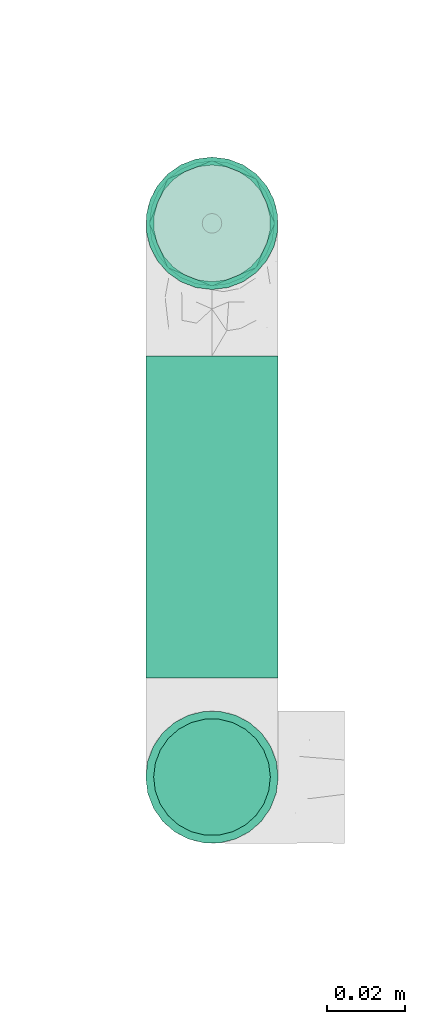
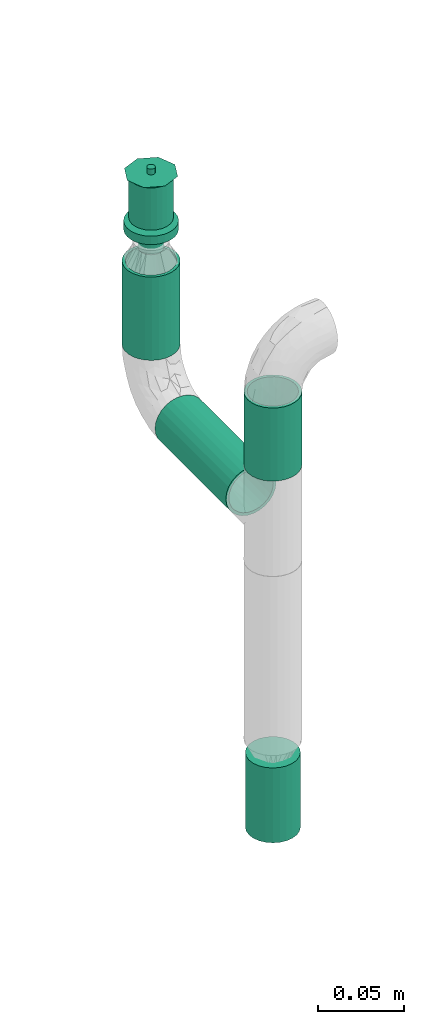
# One storey, part 131 of 157: 3 flow segments, 2 flow terminals.
"""IFC2X3 building model written with IfcOpenShell, lengths in millimetres."""

from ifc_helpers import new_model, entity, si_unit, converted_unit, derived_unit, direction, frame, origin_with_axes, origin_2d_with_axis, place, context, subcontext, project, spatial, hollow_circle, extrude, open_shell, surface_model, source, transform, mapped, type_object, element, save


model = new_model("IFC2X3")

# Units and contexts
model_context = context("Model", 3, precision=0.01, world=frame((0.0, 4.29681676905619e-09, 0.0)), true_north=direction((4.01073788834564e-13, 1.0)))
plan_context = context("Plan", 3, precision=0.01, world=frame((0.0, 4.29681676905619e-09, 0.0)), true_north=direction((4.01073788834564e-13, 1.0)))
body_context = subcontext(model_context, "Body", "Model", "MODEL_VIEW")
ifc_project = project(units=[converted_unit("PLANEANGLEUNIT", "DEGREE", entity("IfcPositiveLengthMeasure", 0.0174532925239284), si_unit("PLANEANGLEUNIT", "RADIAN"), dimensions=[0, 0, 0, 0, 0, 0, 0]), si_unit("AREAUNIT", "SQUARE_METRE"), si_unit("LENGTHUNIT", "METRE", prefix="MILLI"), si_unit("MASSUNIT", "GRAM", prefix="KILO"), si_unit("POWERUNIT", "WATT"), si_unit("PRESSUREUNIT", "PASCAL"), si_unit("FORCEUNIT", "NEWTON", prefix="KILO"), si_unit("ELECTRICCURRENTUNIT", "AMPERE"), si_unit("THERMODYNAMICTEMPERATUREUNIT", "DEGREE_CELSIUS"), si_unit("TIMEUNIT", "SECOND"), si_unit("VOLUMEUNIT", "CUBIC_METRE"), derived_unit("LINEARVELOCITYUNIT", [(si_unit("LENGTHUNIT", "METRE"), 1), (si_unit("TIMEUNIT", "SECOND"), -1)]), derived_unit("VOLUMETRICFLOWRATEUNIT", [(si_unit("VOLUMEUNIT", "CUBIC_METRE"), 1), (si_unit("TIMEUNIT", "SECOND"), -1)]), derived_unit("THERMALTRANSMITTANCEUNIT", [(si_unit("POWERUNIT", "WATT"), 1), (si_unit("THERMODYNAMICTEMPERATUREUNIT", "KELVIN"), -1), (si_unit("AREAUNIT", "SQUARE_METRE"), -1)])], contexts=[model_context, plan_context])

# Site, building, storey
site_placement = place(None, frame((0.0, -4.29681676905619e-09, 0.0), z_axis=(0.0, 0.0, 1.0), x_axis=(1.0, 0.0, 0.0)))
site = spatial("IfcSite", under=ifc_project, at=site_placement, CompositionType="ELEMENT")
building_placement = place(site_placement, frame((0.0, 4.29681676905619e-09, 0.0), z_axis=(0.0, 0.0, 1.0), x_axis=(1.0, 0.0, 0.0)))
building = spatial("IfcBuilding", under=site, at=building_placement, Name="mc-building", CompositionType="ELEMENT")
storey_placement = place(building_placement, frame((0.0, 0.0, 204000.0), z_axis=(0.0, 0.0, 1.0), x_axis=(1.0, 0.0, 0.0)))
storey = spatial("IfcBuildingStorey", under=building, at=storey_placement, Name="Nivå D", CompositionType="ELEMENT", Elevation=204000.0)

# Flow segments
pipe_segment_type = type_object("IfcPipeSegmentType", Name="Stålrør normaltykke", PredefinedType="RIGIDSEGMENT")
shared_shape_1 = source(origin_with_axes(), body_context, "Body", "SweptSolid", [
    extrude(hollow_circle(Radius=16.9, WallThickness=2.0, at=origin_2d_with_axis()), frame((0.0, 0.0, 0.0), z_axis=(1.0, 0.0, 0.0), x_axis=(0.0, 1.0, 0.0)), (0.0, 0.0, 1.0), 51.8),
])
flow_segment_1_placement = place(storey_placement, frame((518554.95218, 417917.85762, 2603.79999999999), z_axis=(0.0, 1.0, 0.0), x_axis=(0.0, 0.0, 1.0)))
element("IfcFlowSegment", 1, at=flow_segment_1_placement, inside=storey, type_object=pipe_segment_type, Name="Stålrør normaltykke", context=body_context, shape_type="MappedRepresentation", body=[
    mapped(shared_shape_1, transform((0.0, 0.0, 0.0), scale=1.0)),
])
shared_shape_2 = source(origin_with_axes(), body_context, "Body", "SweptSolid", [
    extrude(hollow_circle(Radius=16.9, WallThickness=2.0, at=origin_2d_with_axis()), frame((0.0, 0.0, 0.0), z_axis=(1.0, 0.0, 0.0), x_axis=(0.0, 1.0, 0.0)), (0.0, 0.0, 1.0), 59.0),
])
flow_segment_2_placement = place(storey_placement, frame((518554.95218, 418059.2201, 2662.64799999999), z_axis=(-1.0, 0.0, 0.0), x_axis=(0.0, 0.0, -1.0)))
element("IfcFlowSegment", 2, at=flow_segment_2_placement, inside=storey, type_object=pipe_segment_type, Name="Stålrør normaltykke", context=body_context, shape_type="MappedRepresentation", body=[
    mapped(shared_shape_2, transform((0.0, 0.0, 0.0), scale=1.0)),
])
shared_shape_3 = source(origin_with_axes(), body_context, "Body", "SweptSolid", [
    extrude(hollow_circle(Radius=16.9, WallThickness=2.0, at=origin_2d_with_axis()), frame((0.0, 0.0, 0.0), z_axis=(1.0, 0.0, 0.0), x_axis=(0.0, 1.0, 0.0)), (0.0, 0.0, 1.0), 82.2),
])
flow_segment_3_placement = place(storey_placement, frame((518554.95218, 417943.20762, 2570.0), z_axis=(0.0, 0.0, 1.0), x_axis=(0.0, 1.0, 0.0)))
element("IfcFlowSegment", 3, at=flow_segment_3_placement, inside=storey, type_object=pipe_segment_type, Name="Stålrør normaltykke", context=body_context, shape_type="MappedRepresentation", body=[
    mapped(shared_shape_3, transform((0.0, 0.0, 0.0), scale=1.0)),
])

# Flow terminals
fire_suppression_terminal_type_1 = type_object("IfcFireSuppressionTerminalType", Name="SP-15-K80-68DGR-STD-HIMLING", PredefinedType="NOTDEFINED")
shared_shape_4 = source(origin_with_axes(), body_context, "Body", "SurfaceModel", [
    surface_model("IfcShellBasedSurfaceModel", [(4.1411, -15.45481, 53.0), (8.0, -13.85641, 53.0), (11.31371, -11.31371, 53.0), (-8.0, -13.85641, 53.0), (15.45481, -4.1411, 53.0), (16.0, 0.0, 53.0), (13.85641, -8.0, 53.0), (0.0, -16.0, 53.0), (-4.1411, -15.45481, 53.0), (-13.85641, -8.0, 53.0), (-11.31371, -11.31371, 53.0), (-15.45481, -4.1411, 53.0), (15.45481, 4.1411, 53.0), (13.85641, 8.0, 53.0), (11.31371, 11.31371, 53.0), (-4.1411, 15.45481, 53.0), (8.0, 13.85641, 53.0), (4.1411, 15.45481, 53.0), (0.0, 16.0, 53.0), (-13.85641, 8.0, 53.0), (-15.45481, 4.1411, 53.0), (-16.0, 0.0, 53.0), (-11.31371, 11.31371, 53.0), (-8.0, 13.85641, 53.0), (0.0, 16.0, 0.0), (4.1411, 15.45481, 0.0), (8.0, 13.85641, 0.0), (-4.1411, 15.45481, 0.0), (11.31371, 11.31371, 0.0), (13.85641, 8.0, 0.0), (15.45481, 4.1411, 0.0), (-15.45481, -4.1411, 0.0), (-11.31371, 11.31371, 0.0), (-8.0, 13.85641, 0.0), (-13.85641, 8.0, 0.0), (-15.45481, 4.1411, 0.0), (-16.0, 0.0, 0.0), (4.1411, -15.45481, 0.0), (16.0, 0.0, 0.0), (15.45481, -4.1411, 0.0), (13.85641, -8.0, 0.0), (11.31371, -11.31371, 0.0), (8.0, -13.85641, 0.0), (-8.0, -13.85641, 0.0), (-13.85641, -8.0, 0.0), (-11.31371, -11.31371, 0.0), (0.0, -16.0, 0.0), (-4.1411, -15.45481, 0.0)], [open_shell([[[0, 1, 2]], [[3, 0, 2]], [[4, 5, 2]], [[4, 2, 6]], [[3, 2, 5]], [[7, 3, 8]], [[7, 0, 3]], [[3, 9, 10]], [[9, 3, 11]], [[5, 11, 3]], [[5, 12, 11]], [[12, 13, 14]], [[15, 12, 14]], [[16, 17, 18]], [[14, 16, 15]], [[18, 15, 16]], [[11, 19, 20]], [[21, 11, 20]], [[22, 15, 23]], [[15, 22, 19]], [[19, 11, 15]], [[11, 12, 15]], [[24, 25, 26]], [[27, 24, 26]], [[28, 29, 30]], [[27, 26, 28]], [[27, 28, 31]], [[27, 32, 33]], [[32, 27, 34]], [[34, 31, 35]], [[31, 34, 27]], [[35, 31, 36]], [[28, 30, 31]], [[37, 38, 39]], [[37, 39, 40]], [[41, 42, 37]], [[41, 37, 40]], [[38, 37, 43]], [[44, 43, 45]], [[43, 44, 31]], [[43, 46, 47]], [[43, 31, 38]], [[37, 46, 43]], [[38, 31, 30]], [[11, 31, 44]], [[45, 9, 44]], [[3, 43, 47]], [[45, 43, 10]], [[8, 47, 46]], [[31, 21, 36]], [[31, 11, 21]], [[44, 9, 11]], [[45, 10, 9]], [[3, 10, 43]], [[47, 8, 3]], [[46, 7, 8]], [[0, 37, 42]], [[41, 1, 42]], [[6, 40, 39]], [[41, 40, 2]], [[4, 39, 38]], [[37, 0, 7]], [[42, 1, 0]], [[41, 2, 1]], [[40, 6, 2]], [[4, 6, 39]], [[38, 5, 4]], [[37, 7, 46]], [[12, 38, 30]], [[13, 30, 29]], [[16, 26, 25]], [[17, 25, 24]], [[30, 13, 12]], [[12, 5, 38]], [[28, 14, 13]], [[28, 26, 14]], [[14, 26, 16]], [[25, 17, 16]], [[28, 13, 29]], [[24, 18, 17]], [[15, 27, 33]], [[32, 23, 33]], [[19, 34, 35]], [[32, 34, 22]], [[20, 35, 36]], [[27, 15, 18]], [[33, 23, 15]], [[32, 22, 23]], [[34, 19, 22]], [[20, 19, 35]], [[36, 21, 20]], [[27, 18, 24]]])]),
])
flow_terminal_1_placement = place(storey_placement, frame((518554.95218, 417917.85762, 2400.0), z_axis=(0.0, 0.0, -1.0), x_axis=(1.0, 0.0, 0.0)))
element("IfcFlowTerminal", 4, at=flow_terminal_1_placement, inside=storey, type_object=fire_suppression_terminal_type_1, Name="SP-15-K80-68DGR-STD-HIMLING", context=body_context, shape_type="MappedRepresentation", body=[
    mapped(shared_shape_4, transform((0.0, 0.0, 0.0), scale=1.0)),
])
fire_suppression_terminal_type_2 = type_object("IfcFireSuppressionTerminalType", Name="68DGR-STD-STÅENDE", PredefinedType="NOTDEFINED")
shared_shape_5 = source(origin_with_axes(), body_context, "Body", "SurfaceModel", [
    surface_model("IfcShellBasedSurfaceModel", [(3.36465, -12.55704, 51.0), (6.5, -11.25833, 51.0), (9.19239, -9.19239, 51.0), (12.55704, -3.36465, 51.0), (-11.25833, -6.5, 51.0), (11.25833, -6.5, 51.0), (-13.0, 0.0, 51.0), (0.0, -13.0, 51.0), (-6.5, -11.25833, 51.0), (-3.36465, -12.55704, 51.0), (-9.19239, -9.19239, 51.0), (-12.55704, -3.36465, 51.0), (13.0, 0.0, 51.0), (12.55704, 3.36465, 51.0), (11.25833, 6.5, 51.0), (9.19239, 9.19239, 51.0), (6.5, 11.25833, 51.0), (3.36465, 12.55704, 51.0), (0.0, 13.0, 51.0), (-3.36465, 12.55704, 51.0), (-12.55704, 3.36465, 51.0), (-9.19239, 9.19239, 51.0), (-11.25833, 6.5, 51.0), (-6.5, 11.25833, 51.0), (0.0, 13.0, 21.14766), (3.36465, 12.55704, 21.14766), (6.5, 11.25833, 21.14766), (-3.36465, 12.55704, 21.14766), (9.19239, 9.19239, 21.14766), (11.25833, 6.5, 21.14766), (12.55704, 3.36465, 21.14766), (-12.55704, 3.36465, 21.14766), (-11.25833, -6.5, 21.14766), (-9.19239, 9.19239, 21.14766), (-6.5, 11.25833, 21.14766), (-11.25833, 6.5, 21.14766), (-13.0, 0.0, 21.14766), (12.55704, -3.36465, 21.14766), (9.19239, -9.19239, 21.14766), (11.25833, -6.5, 21.14766), (6.5, -11.25833, 21.14766), (3.36465, -12.55704, 21.14766), (-6.5, -11.25833, 21.14766), (-9.19239, -9.19239, 21.14766), (-12.55704, -3.36465, 21.14766), (0.0, -13.0, 21.14766), (-3.36465, -12.55704, 21.14766), (13.0, 0.0, 21.14766), (7.24444, -1.94114, 0.1), (1.94114, -7.24444, 0.1), (3.75, -6.49519, 0.1), (5.3033, -5.3033, 0.1), (-5.3033, -5.3033, 0.1), (6.49519, -3.75, 0.1), (5.3033, 5.3033, 0.1), (0.0, -7.5, 0.1), (-3.75, -6.49519, 0.1), (-1.94114, -7.24444, 0.1), (-7.24444, -1.94114, 0.1), (-6.49519, -3.75, 0.1), (-7.24444, 1.94114, 0.1), (7.5, 0.0, 0.1), (6.49519, 3.75, 0.1), (-6.49519, 3.75, 0.1), (1.94114, 7.24444, 0.1), (0.0, 7.5, 0.1), (3.75, 6.49519, 0.1), (-7.5, 0.0, 0.1), (-5.3033, 5.3033, 0.1), (-1.94114, 7.24444, 0.1), (-3.75, 6.49519, 0.1), (7.24444, 1.94114, 0.1), (1.94114, 7.24444, -0.1), (-6.49519, 3.75, -0.1), (0.0, 7.5, -0.1), (5.3033, 5.3033, -0.1), (3.75, 6.49519, -0.1), (6.49519, 3.75, -0.1), (7.24444, 1.94114, -0.1), (-1.94114, 7.24444, -0.1), (-5.3033, 5.3033, -0.1), (-3.75, 6.49519, -0.1), (-7.24444, 1.94114, -0.1), (-7.24444, -1.94114, -0.1), (-7.5, 0.0, -0.1), (7.5, 0.0, -0.1), (7.24444, -1.94114, -0.1), (-5.3033, -5.3033, -0.1), (1.94114, -7.24444, -0.1), (6.49519, -3.75, -0.1), (5.3033, -5.3033, -0.1), (3.75, -6.49519, -0.1), (-6.49519, -3.75, -0.1), (-3.75, -6.49519, -0.1), (0.0, -7.5, -0.1), (-1.94114, -7.24444, -0.1), (0.0, -2.5, 51.0), (-2.5, 0.0, 51.0), (0.0, 2.5, 51.0), (2.5, 0.0, 51.0), (0.0, -16.0, 53.0), (11.31371, -11.31371, 53.0), (-11.31371, -11.31371, 53.0), (-16.0, 0.0, 53.0), (16.0, 0.0, 53.0), (11.31371, 11.31371, 53.0), (0.0, 16.0, 53.0), (-11.31371, 11.31371, 53.0), (1.25, -2.16506, 57.0), (0.0, -2.5, 57.0), (0.64705, -2.41481, 57.0), (2.41481, -0.64705, 57.0), (1.76777, -1.76777, 57.0), (-2.41481, -0.64705, 57.0), (-2.5, 0.0, 57.0), (2.16506, -1.25, 57.0), (-1.25, -2.16506, 57.0), (-0.64705, -2.41481, 57.0), (-1.76777, -1.76777, 57.0), (-2.16506, -1.25, 57.0), (2.5, 0.0, 57.0), (2.41481, 0.64705, 57.0), (2.16506, 1.25, 57.0), (1.76777, 1.76777, 57.0), (0.64705, 2.41481, 57.0), (1.25, 2.16506, 57.0), (-1.76777, 1.76777, 57.0), (0.0, 2.5, 57.0), (-2.16506, 1.25, 57.0), (-2.41481, 0.64705, 57.0), (-0.64705, 2.41481, 57.0), (-1.25, 2.16506, 57.0), (1.25, 2.16506, 51.0), (1.76777, 1.76777, 51.0), (1.15, 1.99186, 51.0), (0.59528, 2.22163, 51.0), (0.64705, 2.41481, 51.0), (0.0, 2.3, 51.0), (1.62635, 1.62635, 51.0), (2.41481, 0.64705, 51.0), (2.3, 0.0, 51.0), (2.22163, 0.59528, 51.0), (2.16506, 1.25, 51.0), (1.99186, 1.15, 51.0), (-0.59528, 2.22163, 51.0), (-0.64705, 2.41481, 51.0), (-1.15, 1.99186, 51.0), (-1.76777, 1.76777, 51.0), (-1.25, 2.16506, 51.0), (-1.62635, 1.62635, 51.0), (-1.99186, 1.15, 51.0), (-2.16506, 1.25, 51.0), (-2.22163, 0.59528, 51.0), (-2.41481, 0.64705, 51.0), (-2.3, 0.0, 51.0), (2.41481, -0.64705, 51.0), (2.22163, -0.59528, 51.0), (1.99186, -1.15, 51.0), (2.16506, -1.25, 51.0), (1.62635, -1.62635, 51.0), (1.76777, -1.76777, 51.0), (1.25, -2.16506, 51.0), (1.15, -1.99186, 51.0), (0.59528, -2.22163, 51.0), (0.64705, -2.41481, 51.0), (0.0, -2.3, 51.0), (-2.16506, -1.25, 51.0), (-1.99186, -1.15, 51.0), (-1.76777, -1.76777, 51.0), (-1.62635, -1.62635, 51.0), (-2.41481, -0.64705, 51.0), (-2.22163, -0.59528, 51.0), (-0.59528, -2.22163, 51.0), (-0.64705, -2.41481, 51.0), (-1.15, -1.99186, 51.0), (-1.25, -2.16506, 51.0), (1.62635, -1.62635, 56.8), (1.15, -1.99186, 56.8), (0.59528, -2.22163, 56.8), (0.0, -2.3, 56.8), (2.22163, 0.59528, 56.8), (1.99186, -1.15, 56.8), (2.22163, -0.59528, 56.8), (-0.59528, -2.22163, 56.8), (-1.15, -1.99186, 56.8), (-1.62635, -1.62635, 56.8), (-1.99186, -1.15, 56.8), (-2.22163, -0.59528, 56.8), (-1.99186, 1.15, 56.8), (2.3, 0.0, 56.8), (1.62635, 1.62635, 56.8), (1.99186, 1.15, 56.8), (1.15, 1.99186, 56.8), (0.0, 2.3, 56.8), (0.59528, 2.22163, 56.8), (-2.22163, 0.59528, 56.8), (-2.3, 0.0, 56.8), (-1.15, 1.99186, 56.8), (-0.59528, 2.22163, 56.8), (-1.62635, 1.62635, 56.8), (4.1411, -15.45481, 19.0), (8.0, -13.85641, 19.0), (11.31371, -11.31371, 19.0), (-8.0, -13.85641, 19.0), (15.45481, -4.1411, 19.0), (16.0, 0.0, 19.0), (13.85641, -8.0, 19.0), (0.0, -16.0, 19.0), (-4.1411, -15.45481, 19.0), (-13.85641, -8.0, 19.0), (-11.31371, -11.31371, 19.0), (-15.45481, -4.1411, 19.0), (15.45481, 4.1411, 19.0), (13.85641, 8.0, 19.0), (11.31371, 11.31371, 19.0), (-4.1411, 15.45481, 19.0), (8.0, 13.85641, 19.0), (4.1411, 15.45481, 19.0), (0.0, 16.0, 19.0), (-13.85641, 8.0, 19.0), (-15.45481, 4.1411, 19.0), (-16.0, 0.0, 19.0), (-11.31371, 11.31371, 19.0), (-8.0, 13.85641, 19.0), (0.0, 16.0, 13.0), (4.1411, 15.45481, 13.0), (8.0, 13.85641, 13.0), (-4.1411, 15.45481, 13.0), (11.31371, 11.31371, 13.0), (13.85641, 8.0, 13.0), (15.45481, 4.1411, 13.0), (-15.45481, -4.1411, 13.0), (-11.31371, 11.31371, 13.0), (-8.0, 13.85641, 13.0), (-13.85641, 8.0, 13.0), (-15.45481, 4.1411, 13.0), (-16.0, 0.0, 13.0), (4.1411, -15.45481, 13.0), (16.0, 0.0, 13.0), (15.45481, -4.1411, 13.0), (13.85641, -8.0, 13.0), (11.31371, -11.31371, 13.0), (8.0, -13.85641, 13.0), (-8.0, -13.85641, 13.0), (-13.85641, -8.0, 13.0), (-11.31371, -11.31371, 13.0), (0.0, -16.0, 13.0), (-4.1411, -15.45481, 13.0), (7.24444, -1.94114, 13.0), (1.94114, -7.24444, 13.0), (3.75, -6.49519, 13.0), (5.3033, -5.3033, 13.0), (-5.3033, -5.3033, 13.0), (6.49519, -3.75, 13.0), (5.3033, 5.3033, 13.0), (0.0, -7.5, 13.0), (-3.75, -6.49519, 13.0), (-1.94114, -7.24444, 13.0), (-7.24444, -1.94114, 13.0), (-6.49519, -3.75, 13.0), (-7.24444, 1.94114, 13.0), (7.5, 0.0, 13.0), (6.49519, 3.75, 13.0), (-6.49519, 3.75, 13.0), (1.94114, 7.24444, 13.0), (0.0, 7.5, 13.0), (3.75, 6.49519, 13.0), (-7.5, 0.0, 13.0), (-5.3033, 5.3033, 13.0), (-1.94114, 7.24444, 13.0), (-3.75, 6.49519, 13.0), (7.24444, 1.94114, 13.0), (3.75, 6.49519, 0.0), (5.3033, 5.3033, 0.0), (3.65, 6.32199, 0.0), (1.88938, 7.05126, 0.0), (0.0, 7.3, 0.0), (1.94114, 7.24444, 0.0), (0.0, 7.5, 0.0), (5.16188, 5.16188, 0.0), (7.24444, 1.94114, 0.0), (7.3, 0.0, 0.0), (7.05126, 1.88938, 0.0), (7.5, 0.0, 0.0), (6.49519, 3.75, 0.0), (6.32199, 3.65, 0.0), (-1.88938, 7.05126, 0.0), (-1.94114, 7.24444, 0.0), (-3.65, 6.32199, 0.0), (-5.3033, 5.3033, 0.0), (-3.75, 6.49519, 0.0), (-5.16188, 5.16188, 0.0), (-6.32199, 3.65, 0.0), (-6.49519, 3.75, 0.0), (-7.05126, 1.88938, 0.0), (-7.24444, 1.94114, 0.0), (-7.3, 0.0, 0.0), (-7.5, 0.0, 0.0), (7.24444, -1.94114, 0.0), (7.05126, -1.88938, 0.0), (6.32199, -3.65, 0.0), (6.49519, -3.75, 0.0), (5.16188, -5.16188, 0.0), (5.3033, -5.3033, 0.0), (3.75, -6.49519, 0.0), (3.65, -6.32199, 0.0), (1.88938, -7.05126, 0.0), (1.94114, -7.24444, 0.0), (0.0, -7.3, 0.0), (0.0, -7.5, 0.0), (-6.49519, -3.75, 0.0), (-6.32199, -3.65, 0.0), (-5.3033, -5.3033, 0.0), (-5.16188, -5.16188, 0.0), (-7.24444, -1.94114, 0.0), (-7.05126, -1.88938, 0.0), (-1.88938, -7.05126, 0.0), (-1.94114, -7.24444, 0.0), (-3.65, -6.32199, 0.0), (-3.75, -6.49519, 0.0), (1.88938, -7.05126, 12.8), (0.0, -7.3, 12.8), (3.65, -6.32199, 12.8), (5.16188, -5.16188, 12.8), (6.32199, -3.65, 12.8), (7.05126, 1.88938, 12.8), (7.05126, -1.88938, 12.8), (-5.16188, -5.16188, 12.8), (-1.88938, -7.05126, 12.8), (-3.65, -6.32199, 12.8), (-6.32199, -3.65, 12.8), (-7.05126, -1.88938, 12.8), (0.0, 7.3, 12.8), (7.3, 0.0, 12.8), (6.32199, 3.65, 12.8), (5.16188, 5.16188, 12.8), (3.65, 6.32199, 12.8), (1.88938, 7.05126, 12.8), (-6.32199, 3.65, 12.8), (-7.05126, 1.88938, 12.8), (-7.3, 0.0, 12.8), (-3.65, 6.32199, 12.8), (-1.88938, 7.05126, 12.8), (-5.16188, 5.16188, 12.8)], [open_shell([[[0, 1, 2]], [[0, 2, 3]], [[0, 3, 4]], [[3, 2, 5]], [[6, 4, 3]], [[7, 8, 9]], [[7, 0, 8]], [[8, 4, 10]], [[0, 4, 8]], [[4, 6, 11]], [[6, 3, 12]], [[13, 14, 15]], [[6, 13, 15]], [[16, 17, 18]], [[15, 16, 19]], [[18, 19, 16]], [[20, 21, 22]], [[20, 6, 15]], [[21, 19, 23]], [[19, 21, 20]], [[15, 19, 20]], [[13, 6, 12]], [[24, 25, 26]], [[27, 24, 26]], [[28, 29, 30]], [[26, 28, 31]], [[28, 32, 31]], [[27, 33, 34]], [[33, 27, 31]], [[33, 31, 35]], [[27, 26, 31]], [[31, 32, 36]], [[32, 28, 30]], [[32, 30, 37]], [[38, 37, 39]], [[38, 40, 41]], [[38, 41, 37]], [[32, 37, 41]], [[32, 42, 43]], [[44, 36, 32]], [[42, 45, 46]], [[42, 32, 41]], [[45, 42, 41]], [[30, 47, 37]], [[4, 32, 43]], [[8, 42, 46]], [[43, 42, 10]], [[9, 46, 45]], [[36, 11, 6]], [[11, 36, 44]], [[11, 44, 4]], [[44, 32, 4]], [[43, 10, 4]], [[8, 10, 42]], [[46, 9, 8]], [[45, 7, 9]], [[0, 41, 40]], [[38, 1, 40]], [[5, 39, 37]], [[38, 39, 2]], [[3, 37, 47]], [[41, 0, 7]], [[40, 1, 0]], [[38, 2, 1]], [[39, 5, 2]], [[3, 5, 37]], [[47, 12, 3]], [[41, 7, 45]], [[30, 13, 47]], [[29, 14, 30]], [[25, 24, 17]], [[15, 29, 28]], [[30, 14, 13]], [[13, 12, 47]], [[16, 26, 17]], [[16, 15, 28]], [[26, 25, 17]], [[15, 14, 29]], [[28, 26, 16]], [[24, 18, 17]], [[19, 27, 34]], [[33, 23, 34]], [[22, 35, 31]], [[33, 35, 21]], [[20, 31, 36]], [[27, 19, 18]], [[34, 23, 19]], [[33, 21, 23]], [[35, 22, 21]], [[20, 22, 31]], [[36, 6, 20]], [[27, 18, 24]], [[48, 49, 50]], [[48, 50, 51]], [[49, 48, 52]], [[48, 51, 53]], [[54, 52, 48]], [[55, 56, 57]], [[56, 55, 52]], [[52, 58, 59]], [[52, 55, 49]], [[52, 60, 58]], [[54, 48, 61]], [[62, 54, 61]], [[54, 63, 52]], [[64, 65, 54]], [[64, 54, 66]], [[63, 54, 65]], [[63, 60, 52]], [[67, 58, 60]], [[68, 69, 70]], [[69, 68, 63]], [[69, 63, 65]], [[71, 62, 61]], [[72, 73, 74]], [[75, 72, 76]], [[75, 77, 78]], [[72, 75, 73]], [[78, 73, 75]], [[79, 80, 81]], [[80, 79, 73]], [[74, 73, 79]], [[78, 82, 73]], [[82, 83, 84]], [[82, 78, 85]], [[86, 87, 85]], [[88, 86, 89]], [[90, 91, 88]], [[90, 88, 89]], [[87, 86, 88]], [[83, 87, 92]], [[83, 85, 87]], [[93, 94, 95]], [[94, 93, 87]], [[88, 94, 87]], [[85, 83, 82]], [[83, 58, 84]], [[92, 59, 83]], [[56, 87, 93]], [[92, 87, 52]], [[57, 93, 95]], [[83, 59, 58]], [[58, 67, 84]], [[57, 56, 93]], [[52, 87, 56]], [[52, 59, 92]], [[55, 57, 95]], [[95, 94, 55]], [[88, 49, 94]], [[91, 50, 88]], [[53, 90, 89]], [[91, 90, 51]], [[48, 89, 86]], [[91, 51, 50]], [[50, 49, 88]], [[61, 48, 86]], [[53, 89, 48]], [[53, 51, 90]], [[85, 61, 86]], [[94, 49, 55]], [[78, 71, 85]], [[77, 62, 78]], [[66, 75, 76]], [[77, 75, 54]], [[64, 76, 72]], [[78, 62, 71]], [[71, 61, 85]], [[64, 66, 76]], [[54, 75, 66]], [[54, 62, 77]], [[65, 64, 72]], [[72, 74, 65]], [[79, 69, 74]], [[81, 70, 79]], [[63, 80, 73]], [[81, 80, 68]], [[60, 73, 82]], [[81, 68, 70]], [[70, 69, 79]], [[67, 60, 82]], [[63, 73, 60]], [[63, 68, 80]], [[84, 67, 82]], [[74, 69, 65]], [[96, 97, 98]], [[98, 99, 96]], [[100, 101, 102]], [[103, 102, 101]], [[101, 104, 103]], [[104, 105, 106]], [[107, 103, 106]], [[106, 103, 104]], [[99, 98, 105]], [[105, 104, 99]], [[98, 106, 105]], [[98, 107, 106]], [[107, 98, 97]], [[103, 107, 97]], [[97, 96, 102]], [[102, 103, 97]], [[96, 100, 102]], [[96, 101, 100]], [[101, 96, 99]], [[104, 101, 99]], [[108, 109, 110]], [[111, 108, 112]], [[113, 108, 114]], [[111, 112, 115]], [[108, 111, 114]], [[109, 116, 117]], [[116, 109, 118]], [[118, 113, 119]], [[118, 109, 108]], [[108, 113, 118]], [[111, 120, 114]], [[121, 122, 123]], [[114, 121, 123]], [[114, 123, 124]], [[124, 123, 125]], [[126, 124, 127]], [[124, 128, 129]], [[129, 114, 124]], [[126, 130, 131]], [[128, 124, 126]], [[130, 126, 127]], [[121, 114, 120]], [[132, 133, 134]], [[132, 134, 135]], [[136, 135, 137]], [[135, 136, 132]], [[136, 137, 98]], [[134, 133, 138]], [[139, 140, 141]], [[140, 139, 99]], [[139, 141, 142]], [[138, 142, 143]], [[142, 138, 133]], [[143, 142, 141]], [[98, 144, 145]], [[98, 137, 144]], [[145, 144, 146]], [[147, 148, 149]], [[146, 148, 145]], [[149, 148, 146]], [[150, 151, 147]], [[151, 150, 152]], [[150, 147, 149]], [[153, 152, 154]], [[152, 153, 151]], [[153, 154, 97]], [[99, 155, 156]], [[156, 155, 157]], [[157, 158, 159]], [[158, 157, 155]], [[159, 158, 160]], [[160, 161, 162]], [[162, 161, 163]], [[163, 164, 165]], [[164, 163, 161]], [[165, 164, 96]], [[162, 159, 160]], [[166, 167, 168]], [[168, 167, 169]], [[167, 166, 170]], [[97, 171, 170]], [[170, 171, 167]], [[97, 154, 171]], [[172, 96, 173]], [[172, 173, 174]], [[169, 175, 168]], [[175, 169, 174]], [[175, 174, 173]], [[165, 96, 172]], [[156, 140, 99]], [[170, 113, 97]], [[166, 119, 170]], [[116, 168, 175]], [[166, 168, 118]], [[117, 175, 173]], [[170, 119, 113]], [[113, 114, 97]], [[117, 116, 175]], [[118, 168, 116]], [[118, 119, 166]], [[109, 117, 173]], [[173, 96, 109]], [[164, 110, 96]], [[161, 108, 164]], [[115, 160, 158]], [[161, 160, 112]], [[111, 158, 155]], [[161, 112, 108]], [[108, 110, 164]], [[120, 111, 155]], [[115, 158, 111]], [[115, 112, 160]], [[99, 120, 155]], [[96, 110, 109]], [[139, 121, 99]], [[142, 122, 139]], [[125, 133, 132]], [[142, 133, 123]], [[124, 132, 136]], [[139, 122, 121]], [[121, 120, 99]], [[124, 125, 132]], [[123, 133, 125]], [[123, 122, 142]], [[127, 124, 136]], [[136, 98, 127]], [[145, 130, 98]], [[148, 131, 145]], [[128, 147, 151]], [[148, 147, 126]], [[129, 151, 153]], [[148, 126, 131]], [[131, 130, 145]], [[114, 129, 153]], [[128, 151, 129]], [[128, 126, 147]], [[97, 114, 153]], [[98, 130, 127]], [[176, 177, 178]], [[176, 178, 179]], [[180, 176, 179]], [[181, 176, 182]], [[180, 182, 176]], [[183, 184, 179]], [[185, 179, 184]], [[186, 187, 185]], [[185, 187, 188]], [[179, 185, 188]], [[189, 182, 180]], [[190, 191, 180]], [[192, 190, 180]], [[193, 194, 192]], [[180, 193, 192]], [[188, 193, 180]], [[195, 188, 196]], [[196, 188, 187]], [[197, 198, 199]], [[188, 199, 198]], [[188, 198, 193]], [[180, 179, 188]], [[154, 187, 171]], [[171, 186, 167]], [[174, 169, 184]], [[185, 169, 167]], [[172, 174, 183]], [[187, 186, 171]], [[154, 196, 187]], [[174, 184, 183]], [[184, 169, 185]], [[167, 186, 185]], [[172, 183, 179]], [[179, 165, 172]], [[165, 178, 163]], [[163, 177, 162]], [[157, 159, 181]], [[176, 159, 162]], [[156, 157, 182]], [[177, 176, 162]], [[163, 178, 177]], [[156, 182, 189]], [[182, 157, 181]], [[159, 176, 181]], [[156, 189, 140]], [[179, 178, 165]], [[140, 180, 141]], [[141, 191, 143]], [[134, 138, 192]], [[190, 138, 143]], [[135, 134, 194]], [[180, 191, 141]], [[140, 189, 180]], [[134, 192, 194]], [[192, 138, 190]], [[143, 191, 190]], [[135, 194, 193]], [[193, 137, 135]], [[137, 198, 144]], [[144, 197, 146]], [[150, 149, 188]], [[199, 149, 146]], [[152, 150, 195]], [[197, 199, 146]], [[144, 198, 197]], [[152, 195, 196]], [[195, 150, 188]], [[149, 199, 188]], [[152, 196, 154]], [[193, 198, 137]], [[200, 201, 202]], [[203, 200, 202]], [[204, 205, 202]], [[204, 202, 206]], [[203, 202, 205]], [[207, 203, 208]], [[207, 200, 203]], [[203, 209, 210]], [[209, 203, 211]], [[205, 211, 203]], [[205, 212, 211]], [[212, 213, 214]], [[215, 212, 214]], [[216, 217, 218]], [[214, 216, 215]], [[218, 215, 216]], [[211, 219, 220]], [[221, 211, 220]], [[222, 215, 223]], [[215, 222, 219]], [[219, 211, 215]], [[211, 212, 215]], [[224, 225, 226]], [[227, 224, 226]], [[228, 229, 230]], [[227, 226, 228]], [[227, 228, 231]], [[227, 232, 233]], [[232, 227, 234]], [[234, 231, 235]], [[231, 234, 227]], [[235, 231, 236]], [[228, 230, 231]], [[237, 238, 239]], [[237, 239, 240]], [[241, 242, 237]], [[241, 237, 240]], [[238, 237, 243]], [[244, 243, 245]], [[243, 244, 231]], [[243, 246, 247]], [[243, 231, 238]], [[237, 246, 243]], [[238, 231, 230]], [[231, 211, 236]], [[244, 209, 231]], [[203, 245, 243]], [[244, 245, 210]], [[208, 243, 247]], [[231, 209, 211]], [[211, 221, 236]], [[208, 203, 243]], [[210, 245, 203]], [[210, 209, 244]], [[207, 208, 247]], [[247, 246, 207]], [[237, 200, 246]], [[242, 201, 237]], [[206, 241, 240]], [[242, 241, 202]], [[204, 240, 239]], [[242, 202, 201]], [[201, 200, 237]], [[205, 204, 239]], [[206, 240, 204]], [[206, 202, 241]], [[238, 205, 239]], [[246, 200, 207]], [[230, 212, 238]], [[229, 213, 230]], [[216, 228, 226]], [[229, 228, 214]], [[217, 226, 225]], [[230, 213, 212]], [[212, 205, 238]], [[217, 216, 226]], [[214, 228, 216]], [[214, 213, 229]], [[218, 217, 225]], [[225, 224, 218]], [[227, 215, 224]], [[233, 223, 227]], [[219, 232, 234]], [[233, 232, 222]], [[220, 234, 235]], [[233, 222, 223]], [[223, 215, 227]], [[221, 220, 235]], [[219, 234, 220]], [[219, 222, 232]], [[236, 221, 235]], [[224, 215, 218]], [[248, 249, 250]], [[248, 250, 251]], [[249, 248, 252]], [[248, 251, 253]], [[254, 252, 248]], [[255, 256, 257]], [[256, 255, 252]], [[252, 258, 259]], [[252, 255, 249]], [[252, 260, 258]], [[254, 248, 261]], [[262, 254, 261]], [[254, 263, 252]], [[264, 265, 254]], [[264, 254, 266]], [[263, 254, 265]], [[263, 260, 252]], [[267, 258, 260]], [[268, 269, 270]], [[269, 268, 263]], [[269, 263, 265]], [[271, 262, 261]], [[272, 273, 274]], [[272, 274, 275]], [[276, 277, 275]], [[277, 276, 278]], [[275, 277, 272]], [[274, 273, 279]], [[280, 281, 282]], [[281, 280, 283]], [[280, 282, 284]], [[279, 284, 285]], [[284, 279, 273]], [[285, 284, 282]], [[278, 286, 287]], [[287, 286, 288]], [[289, 290, 291]], [[288, 290, 287]], [[288, 291, 290]], [[278, 276, 286]], [[292, 293, 289]], [[293, 292, 294]], [[292, 289, 291]], [[295, 294, 296]], [[294, 295, 293]], [[295, 296, 297]], [[283, 298, 299]], [[299, 298, 300]], [[300, 301, 302]], [[301, 300, 298]], [[302, 301, 303]], [[303, 304, 305]], [[305, 304, 306]], [[306, 307, 308]], [[307, 306, 304]], [[308, 307, 309]], [[305, 302, 303]], [[310, 311, 312]], [[312, 311, 313]], [[311, 310, 314]], [[297, 315, 314]], [[314, 315, 311]], [[297, 296, 315]], [[316, 309, 317]], [[316, 317, 318]], [[313, 319, 312]], [[313, 318, 319]], [[319, 318, 317]], [[308, 309, 316]], [[299, 281, 283]], [[314, 258, 297]], [[310, 259, 314]], [[256, 312, 319]], [[310, 312, 252]], [[257, 319, 317]], [[314, 259, 258]], [[258, 267, 297]], [[257, 256, 319]], [[252, 312, 256]], [[252, 259, 310]], [[255, 257, 317]], [[317, 309, 255]], [[307, 249, 309]], [[304, 250, 307]], [[253, 303, 301]], [[304, 303, 251]], [[248, 301, 298]], [[304, 251, 250]], [[250, 249, 307]], [[261, 248, 298]], [[253, 301, 248]], [[253, 251, 303]], [[283, 261, 298]], [[309, 249, 255]], [[280, 271, 283]], [[284, 262, 280]], [[266, 273, 272]], [[284, 273, 254]], [[264, 272, 277]], [[280, 262, 271]], [[271, 261, 283]], [[264, 266, 272]], [[254, 273, 266]], [[254, 262, 284]], [[265, 264, 277]], [[277, 278, 265]], [[287, 269, 278]], [[290, 270, 287]], [[263, 289, 293]], [[290, 289, 268]], [[260, 293, 295]], [[290, 268, 270]], [[270, 269, 287]], [[267, 260, 295]], [[263, 293, 260]], [[263, 268, 289]], [[297, 267, 295]], [[278, 269, 265]], [[320, 321, 322]], [[323, 322, 324]], [[325, 326, 322]], [[324, 322, 326]], [[322, 327, 325]], [[328, 329, 321]], [[327, 321, 329]], [[330, 331, 327]], [[322, 321, 327]], [[331, 332, 327]], [[326, 325, 333]], [[334, 325, 332]], [[335, 334, 336]], [[332, 337, 336]], [[334, 332, 336]], [[331, 338, 332]], [[339, 338, 340]], [[340, 338, 331]], [[341, 342, 343]], [[332, 338, 343]], [[332, 343, 342]], [[332, 325, 327]], [[296, 331, 315]], [[315, 330, 311]], [[318, 313, 329]], [[327, 313, 311]], [[316, 318, 328]], [[331, 330, 315]], [[296, 340, 331]], [[318, 329, 328]], [[329, 313, 327]], [[311, 330, 327]], [[316, 328, 321]], [[321, 308, 316]], [[308, 320, 306]], [[306, 322, 305]], [[300, 302, 324]], [[323, 302, 305]], [[299, 300, 326]], [[322, 323, 305]], [[306, 320, 322]], [[299, 326, 333]], [[326, 300, 324]], [[302, 323, 324]], [[299, 333, 281]], [[321, 320, 308]], [[281, 325, 282]], [[282, 334, 285]], [[274, 279, 336]], [[335, 279, 285]], [[275, 274, 337]], [[325, 334, 282]], [[281, 333, 325]], [[274, 336, 337]], [[336, 279, 335]], [[285, 334, 335]], [[275, 337, 332]], [[332, 276, 275]], [[276, 342, 286]], [[286, 341, 288]], [[292, 291, 338]], [[343, 291, 288]], [[294, 292, 339]], [[341, 343, 288]], [[286, 342, 341]], [[294, 339, 340]], [[339, 292, 338]], [[291, 343, 338]], [[294, 340, 296]], [[332, 342, 276]]])]),
])
flow_terminal_2_placement = place(storey_placement, frame((518554.95218, 418059.2201, 2672.0), z_axis=(0.0, 0.0, 1.0), x_axis=(0.0, -1.0, 0.0)))
element("IfcFlowTerminal", 5, at=flow_terminal_2_placement, inside=storey, type_object=fire_suppression_terminal_type_2, Name="68DGR-STD-STÅENDE", context=body_context, shape_type="MappedRepresentation", body=[
    mapped(shared_shape_5, transform((0.0, 0.0, 0.0), scale=1.0)),
])

save(model, "model.ifc")
